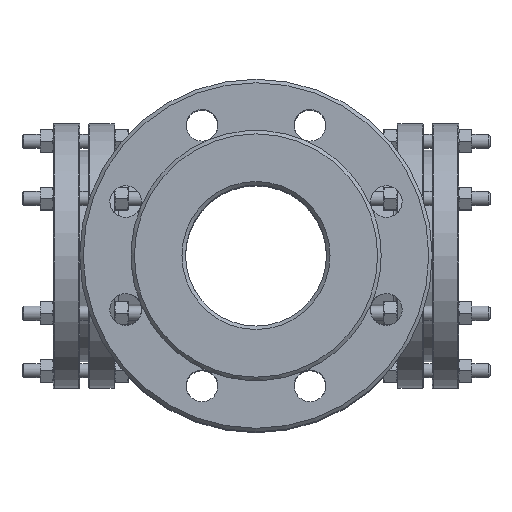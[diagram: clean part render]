
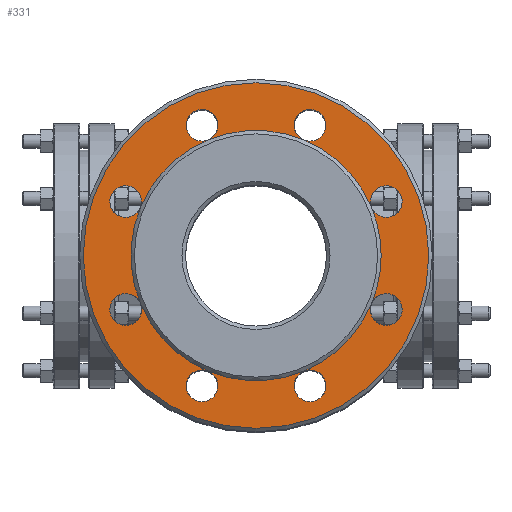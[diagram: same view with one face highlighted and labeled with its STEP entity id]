
A CAD part, top view. The second image highlights one B-rep face of the part: STEP entity #331.
In plain terms, the highlighted planar face has unit normal (0, 0, 1).
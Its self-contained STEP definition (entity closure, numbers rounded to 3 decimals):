
#331=ADVANCED_FACE('',(#3090,#3092,#3094,#3096,#3098,#3100,#3102,#3104,#3106,#3108),
#3110,.T.);
#3090=FACE_BOUND('',#3091,.T.);
#3091=EDGE_LOOP('',(#9881));
#3092=FACE_BOUND('',#3093,.T.);
#3093=EDGE_LOOP('',(#9882,#9883));
#3094=FACE_BOUND('',#3095,.T.);
#3095=EDGE_LOOP('',(#9884,#9885,#9886,#9887,#9888,#9889,#9890,#9891));
#3096=FACE_BOUND('',#3097,.T.);
#3097=EDGE_LOOP('',(#9892));
#3098=FACE_BOUND('',#3099,.T.);
#3099=EDGE_LOOP('',(#9893,#9894));
#3100=FACE_BOUND('',#3101,.T.);
#3101=EDGE_LOOP('',(#9895,#9896));
#3102=FACE_BOUND('',#3103,.T.);
#3103=EDGE_LOOP('',(#9897,#9898));
#3104=FACE_BOUND('',#3105,.T.);
#3105=EDGE_LOOP('',(#9899,#9900));
#3106=FACE_BOUND('',#3107,.T.);
#3107=EDGE_LOOP('',(#9901,#9902));
#3108=FACE_BOUND('',#3109,.T.);
#3109=EDGE_LOOP('',(#9903,#9904));
#3110=PLANE('',#3111);
#3111=AXIS2_PLACEMENT_3D('',#3112,#3113,#3114);
#3112=CARTESIAN_POINT('',(0.,0.,153.));
#3113=DIRECTION('',(0.,0.,1.));
#3114=DIRECTION('',(1.,0.,0.));
#9881=ORIENTED_EDGE('',*,*,#12820,.T.);
#9882=ORIENTED_EDGE('',*,*,#12821,.T.);
#9883=ORIENTED_EDGE('',*,*,#12822,.T.);
#9884=ORIENTED_EDGE('',*,*,#12737,.F.);
#9885=ORIENTED_EDGE('',*,*,#12736,.F.);
#9886=ORIENTED_EDGE('',*,*,#12735,.F.);
#9887=ORIENTED_EDGE('',*,*,#12734,.F.);
#9888=ORIENTED_EDGE('',*,*,#12733,.F.);
#9889=ORIENTED_EDGE('',*,*,#12732,.F.);
#9890=ORIENTED_EDGE('',*,*,#12731,.F.);
#9891=ORIENTED_EDGE('',*,*,#12738,.F.);
#9892=ORIENTED_EDGE('',*,*,#12823,.T.);
#9893=ORIENTED_EDGE('',*,*,#12824,.T.);
#9894=ORIENTED_EDGE('',*,*,#12825,.T.);
#9895=ORIENTED_EDGE('',*,*,#12826,.T.);
#9896=ORIENTED_EDGE('',*,*,#12827,.T.);
#9897=ORIENTED_EDGE('',*,*,#12828,.T.);
#9898=ORIENTED_EDGE('',*,*,#12829,.T.);
#9899=ORIENTED_EDGE('',*,*,#12830,.T.);
#9900=ORIENTED_EDGE('',*,*,#12831,.T.);
#9901=ORIENTED_EDGE('',*,*,#12832,.T.);
#9902=ORIENTED_EDGE('',*,*,#12833,.T.);
#9903=ORIENTED_EDGE('',*,*,#12834,.T.);
#9904=ORIENTED_EDGE('',*,*,#12835,.T.);
#12731=EDGE_CURVE('',#14321,#14322,#14323,.T.);
#12732=EDGE_CURVE('',#14322,#14324,#14325,.T.);
#12733=EDGE_CURVE('',#14324,#14326,#14327,.T.);
#12734=EDGE_CURVE('',#14326,#14328,#14329,.T.);
#12735=EDGE_CURVE('',#14328,#14330,#14331,.T.);
#12736=EDGE_CURVE('',#14330,#14332,#14333,.T.);
#12737=EDGE_CURVE('',#14332,#14334,#14335,.T.);
#12738=EDGE_CURVE('',#14334,#14321,#14336,.T.);
#12820=EDGE_CURVE('',#14463,#14463,#14464,.T.);
#12821=EDGE_CURVE('',#14334,#14465,#14466,.F.);
#12822=EDGE_CURVE('',#14465,#14334,#14467,.F.);
#12823=EDGE_CURVE('',#14468,#14468,#14469,.F.);
#12824=EDGE_CURVE('',#14332,#14470,#14471,.F.);
#12825=EDGE_CURVE('',#14470,#14332,#14472,.F.);
#12826=EDGE_CURVE('',#14330,#14473,#14474,.F.);
#12827=EDGE_CURVE('',#14473,#14330,#14475,.F.);
#12828=EDGE_CURVE('',#14328,#14476,#14477,.F.);
#12829=EDGE_CURVE('',#14476,#14328,#14478,.F.);
#12830=EDGE_CURVE('',#14326,#14479,#14480,.F.);
#12831=EDGE_CURVE('',#14479,#14326,#14481,.F.);
#12832=EDGE_CURVE('',#14324,#14482,#14483,.F.);
#12833=EDGE_CURVE('',#14482,#14324,#14484,.F.);
#12834=EDGE_CURVE('',#14322,#14485,#14486,.F.);
#12835=EDGE_CURVE('',#14485,#14322,#14487,.F.);
#14321=VERTEX_POINT('',#18444);
#14322=VERTEX_POINT('',#18445);
#14323=CIRCLE('',#18446,71.);
#14324=VERTEX_POINT('',#18450);
#14325=CIRCLE('',#18451,71.);
#14326=VERTEX_POINT('',#18455);
#14327=CIRCLE('',#18456,71.);
#14328=VERTEX_POINT('',#18460);
#14329=CIRCLE('',#18461,71.);
#14330=VERTEX_POINT('',#18465);
#14331=CIRCLE('',#18466,71.);
#14332=VERTEX_POINT('',#18470);
#14333=CIRCLE('',#18471,71.);
#14334=VERTEX_POINT('',#18475);
#14335=CIRCLE('',#18476,71.);
#14336=CIRCLE('',#18480,71.);
#14463=VERTEX_POINT('',#20005);
#14464=CIRCLE('',#20006,98.);
#14465=VERTEX_POINT('',#20010);
#14466=CIRCLE('',#20011,9.);
#14467=CIRCLE('',#20015,9.);
#14468=VERTEX_POINT('',#20019);
#14469=CIRCLE('',#20020,9.);
#14470=VERTEX_POINT('',#20024);
#14471=CIRCLE('',#20025,9.);
#14472=CIRCLE('',#20029,9.);
#14473=VERTEX_POINT('',#20033);
#14474=CIRCLE('',#20034,9.);
#14475=CIRCLE('',#20038,9.);
#14476=VERTEX_POINT('',#20042);
#14477=CIRCLE('',#20043,9.);
#14478=CIRCLE('',#20047,9.);
#14479=VERTEX_POINT('',#20051);
#14480=CIRCLE('',#20052,9.);
#14481=CIRCLE('',#20056,9.);
#14482=VERTEX_POINT('',#20060);
#14483=CIRCLE('',#20061,9.);
#14484=CIRCLE('',#20065,9.);
#14485=VERTEX_POINT('',#20069);
#14486=CIRCLE('',#20070,9.);
#14487=CIRCLE('',#20074,9.);
#18444=CARTESIAN_POINT('',(71.,0.,153.));
#18445=CARTESIAN_POINT('',(65.595,27.171,153.));
#18446=AXIS2_PLACEMENT_3D('',#18447,#18448,#18449);
#18447=CARTESIAN_POINT('',(0.,0.,153.));
#18448=DIRECTION('',(0.,0.,1.));
#18449=DIRECTION('',(1.,0.,0.));
#18450=CARTESIAN_POINT('',(27.171,65.595,153.));
#18451=AXIS2_PLACEMENT_3D('',#18452,#18453,#18454);
#18452=CARTESIAN_POINT('',(0.,0.,153.));
#18453=DIRECTION('',(0.,0.,1.));
#18454=DIRECTION('',(0.924,0.383,0.));
#18455=CARTESIAN_POINT('',(-27.171,65.595,153.));
#18456=AXIS2_PLACEMENT_3D('',#18457,#18458,#18459);
#18457=CARTESIAN_POINT('',(0.,0.,153.));
#18458=DIRECTION('',(0.,0.,1.));
#18459=DIRECTION('',(0.383,0.924,0.));
#18460=CARTESIAN_POINT('',(-65.595,27.171,153.));
#18461=AXIS2_PLACEMENT_3D('',#18462,#18463,#18464);
#18462=CARTESIAN_POINT('',(0.,0.,153.));
#18463=DIRECTION('',(0.,0.,1.));
#18464=DIRECTION('',(-0.383,0.924,0.));
#18465=CARTESIAN_POINT('',(-65.595,-27.171,153.));
#18466=AXIS2_PLACEMENT_3D('',#18467,#18468,#18469);
#18467=CARTESIAN_POINT('',(0.,0.,153.));
#18468=DIRECTION('',(0.,0.,1.));
#18469=DIRECTION('',(-0.924,0.383,0.));
#18470=CARTESIAN_POINT('',(-27.171,-65.595,153.));
#18471=AXIS2_PLACEMENT_3D('',#18472,#18473,#18474);
#18472=CARTESIAN_POINT('',(0.,0.,153.));
#18473=DIRECTION('',(0.,0.,1.));
#18474=DIRECTION('',(-0.924,-0.383,0.));
#18475=CARTESIAN_POINT('',(65.595,-27.171,153.));
#18476=AXIS2_PLACEMENT_3D('',#18477,#18478,#18479);
#18477=CARTESIAN_POINT('',(0.,0.,153.));
#18478=DIRECTION('',(0.,0.,1.));
#18479=DIRECTION('',(-0.383,-0.924,0.));
#18480=AXIS2_PLACEMENT_3D('',#18481,#18482,#18483);
#18481=CARTESIAN_POINT('',(0.,0.,153.));
#18482=DIRECTION('',(0.,0.,1.));
#18483=DIRECTION('',(0.924,-0.383,0.));
#20005=CARTESIAN_POINT('',(98.,0.,153.));
#20006=AXIS2_PLACEMENT_3D('',#20007,#20008,#20009);
#20007=CARTESIAN_POINT('',(0.,0.,153.));
#20008=DIRECTION('',(0.,0.,1.));
#20009=DIRECTION('',(1.,0.,0.));
#20010=CARTESIAN_POINT('',(73.91,-39.615,153.));
#20011=AXIS2_PLACEMENT_3D('',#20012,#20013,#20014);
#20012=CARTESIAN_POINT('',(73.91,-30.615,153.));
#20013=DIRECTION('',(0.,0.,1.));
#20014=DIRECTION('',(0.,-1.,0.));
#20015=AXIS2_PLACEMENT_3D('',#20016,#20017,#20018);
#20016=CARTESIAN_POINT('',(73.91,-30.615,153.));
#20017=DIRECTION('',(0.,0.,1.));
#20018=DIRECTION('',(-0.924,0.383,0.));
#20019=CARTESIAN_POINT('',(30.615,-82.91,153.));
#20020=AXIS2_PLACEMENT_3D('',#20021,#20022,#20023);
#20021=CARTESIAN_POINT('',(30.615,-73.91,153.));
#20022=DIRECTION('',(0.,0.,1.));
#20023=DIRECTION('',(0.,-1.,0.));
#20024=CARTESIAN_POINT('',(-30.615,-82.91,153.));
#20025=AXIS2_PLACEMENT_3D('',#20026,#20027,#20028);
#20026=CARTESIAN_POINT('',(-30.615,-73.91,153.));
#20027=DIRECTION('',(0.,0.,1.));
#20028=DIRECTION('',(0.,-1.,0.));
#20029=AXIS2_PLACEMENT_3D('',#20030,#20031,#20032);
#20030=CARTESIAN_POINT('',(-30.615,-73.91,153.));
#20031=DIRECTION('',(0.,0.,1.));
#20032=DIRECTION('',(0.383,0.924,0.));
#20033=CARTESIAN_POINT('',(-73.91,-39.615,153.));
#20034=AXIS2_PLACEMENT_3D('',#20035,#20036,#20037);
#20035=CARTESIAN_POINT('',(-73.91,-30.615,153.));
#20036=DIRECTION('',(0.,0.,1.));
#20037=DIRECTION('',(0.,-1.,0.));
#20038=AXIS2_PLACEMENT_3D('',#20039,#20040,#20041);
#20039=CARTESIAN_POINT('',(-73.91,-30.615,153.));
#20040=DIRECTION('',(0.,0.,1.));
#20041=DIRECTION('',(0.924,0.383,0.));
#20042=CARTESIAN_POINT('',(-73.91,21.615,153.));
#20043=AXIS2_PLACEMENT_3D('',#20044,#20045,#20046);
#20044=CARTESIAN_POINT('',(-73.91,30.615,153.));
#20045=DIRECTION('',(0.,0.,1.));
#20046=DIRECTION('',(0.,-1.,0.));
#20047=AXIS2_PLACEMENT_3D('',#20048,#20049,#20050);
#20048=CARTESIAN_POINT('',(-73.91,30.615,153.));
#20049=DIRECTION('',(0.,0.,1.));
#20050=DIRECTION('',(0.924,-0.383,0.));
#20051=CARTESIAN_POINT('',(-30.615,64.91,153.));
#20052=AXIS2_PLACEMENT_3D('',#20053,#20054,#20055);
#20053=CARTESIAN_POINT('',(-30.615,73.91,153.));
#20054=DIRECTION('',(0.,0.,1.));
#20055=DIRECTION('',(0.,-1.,0.));
#20056=AXIS2_PLACEMENT_3D('',#20057,#20058,#20059);
#20057=CARTESIAN_POINT('',(-30.615,73.91,153.));
#20058=DIRECTION('',(0.,0.,1.));
#20059=DIRECTION('',(0.383,-0.924,0.));
#20060=CARTESIAN_POINT('',(30.615,64.91,153.));
#20061=AXIS2_PLACEMENT_3D('',#20062,#20063,#20064);
#20062=CARTESIAN_POINT('',(30.615,73.91,153.));
#20063=DIRECTION('',(0.,0.,1.));
#20064=DIRECTION('',(0.,-1.,0.));
#20065=AXIS2_PLACEMENT_3D('',#20066,#20067,#20068);
#20066=CARTESIAN_POINT('',(30.615,73.91,153.));
#20067=DIRECTION('',(0.,0.,1.));
#20068=DIRECTION('',(-0.383,-0.924,0.));
#20069=CARTESIAN_POINT('',(73.91,21.615,153.));
#20070=AXIS2_PLACEMENT_3D('',#20071,#20072,#20073);
#20071=CARTESIAN_POINT('',(73.91,30.615,153.));
#20072=DIRECTION('',(0.,0.,1.));
#20073=DIRECTION('',(0.,-1.,0.));
#20074=AXIS2_PLACEMENT_3D('',#20075,#20076,#20077);
#20075=CARTESIAN_POINT('',(73.91,30.615,153.));
#20076=DIRECTION('',(0.,0.,1.));
#20077=DIRECTION('',(-0.924,-0.383,0.));
